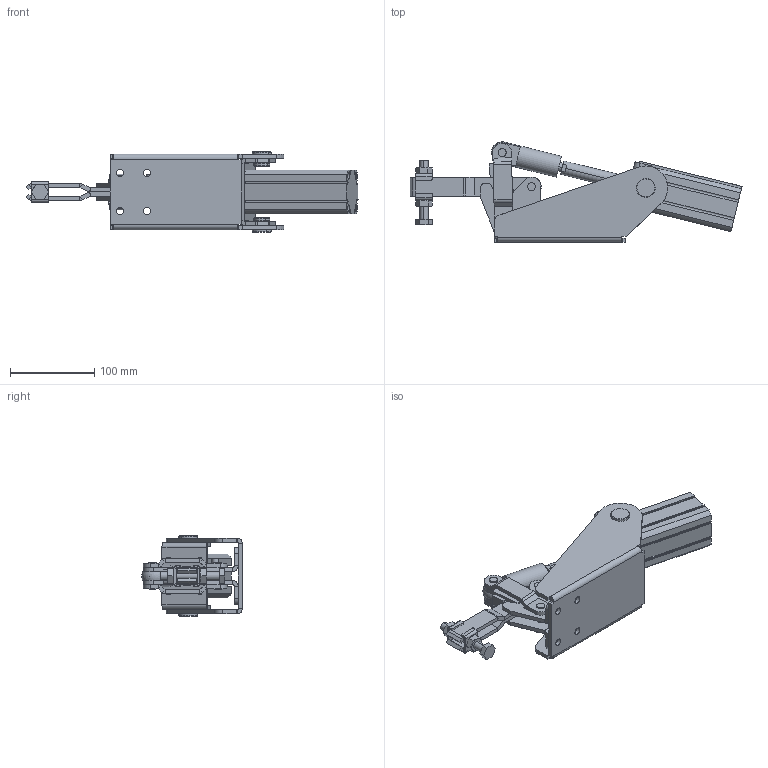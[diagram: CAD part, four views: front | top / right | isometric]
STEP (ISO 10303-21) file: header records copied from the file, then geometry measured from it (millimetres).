
FILE_DESCRIPTION (( 'STEP AP203' ), '1' );
FILE_NAME ('KF-111 DB P.STEP', '2014-08-28T17:30:00', ( 'Ricardo' ), ( '' ), 'SwSTEP 2.0', 'SolidWorks 2013', '' );
FILE_SCHEMA (( 'CONFIG_CONTROL_DESIGN' ));
Length unit declared in the file: millimetre
Products named in the file (21): 16.20071; 04.10003A_Direita; 14.10003; 03.13006; 04.10003B_Direita; 11.50003; 12.50021; 04.20003; PS-M10; 06.50009; HI_CD55B40-80(0)_BODY; 06.50010; HI_C55B40-80M(0)_ROD; 15.20029; 02.12010_Direita; CD55B40-80M_avan㌢do; 15.10101; 02.12010_Esquerda; KF-111 DB P; 15.10062; 01.10168
Assembly tree (27 placements, depth 3):
  KF-111 DB P
    02.12010_Direita
    02.12010_Esquerda
    01.10168  x2
    04.10003A_Direita
    04.10003B_Direita
    04.20003
    06.50009  x2
    06.50010  x2
    15.20029
    15.10101
    15.10062
    16.20071  x2
    03.13006  x2
    PS-M10
      12.50021
      14.10003  x2
      11.50003  x2
    CD55B40-80M_avan㌢do
      HI_CD55B40-80(0)_BODY
      HI_C55B40-80M(0)_ROD
Bounding box: 393.03 x 118.73 x 95.5 mm (x, y, z)
Volume: 582746.9 mm3; surface area: 243433.7 mm2
Topology: 25 solids, 25 shells, 734 faces, 1704 edges, 1045 vertices
Faces by surface type: plane 358, cylinder 313, cone 60, bspline 2, sphere 1
Entity records: 19147 total; most frequent: DIRECTION 3088, CARTESIAN_POINT 2951, ORIENTED_EDGE 2692, EDGE_CURVE 1346, AXIS2_PLACEMENT_3D 1160, VERTEX_POINT 843, LINE 768, VECTOR 768
